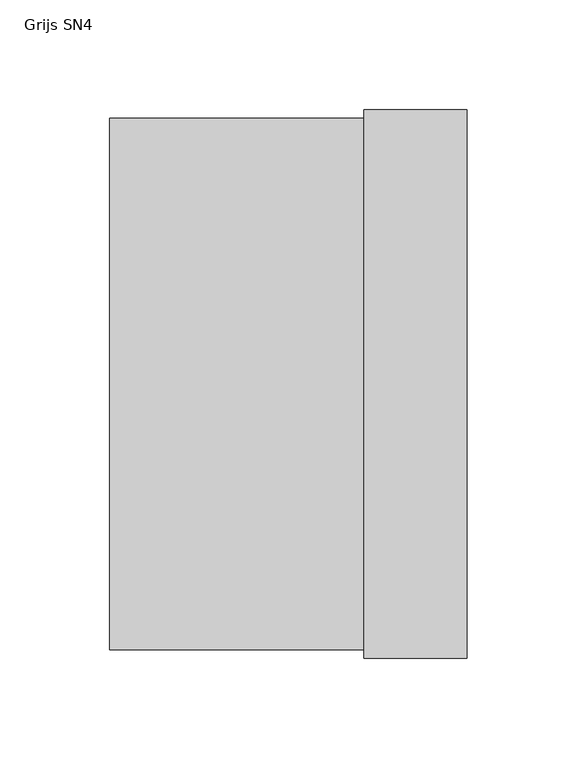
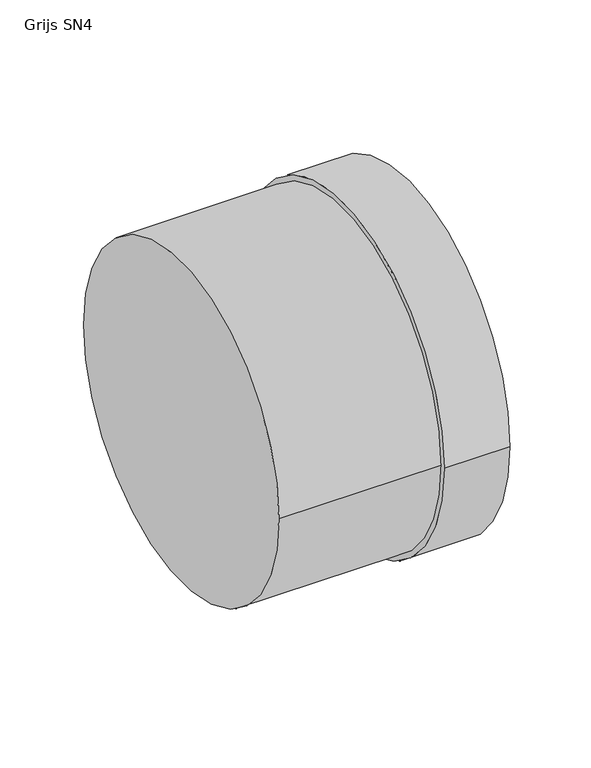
"""IFC4 building model written with IfcOpenShell, lengths in millimetres: pipe fitting geometry, NLRS_52_PIF_UN_SN4 SN8 afsluitkap_Dyka : Grijs SN4."""

from ifc_helpers import new_model, si_unit, point, frame, origin, origin_2d, place, context, project, spatial, circle_curve, trimmed, segment, composite_curve, outline, extrude, source, transform, mapped, element, save


def grijs_sn4_0e01fd9a(model_context):
    return source(origin(), model_context, "Body", "SweptSolid", [
        extrude(outline(composite_curve([segment(trimmed(circle_curve(origin_2d(), 125.0), [point((-125.0, 0.0))], [point((125.0, 0.0))], False, "CARTESIAN"), True, "CONTINUOUS"), segment(trimmed(circle_curve(origin_2d(), 125.0), [point((125.0, 0.0))], [point((-125.0, 0.0))], False, "CARTESIAN"), True, "CONTINUOUS")], self_intersect=False)), frame((0.0, 0.0, 0.0), z_axis=(1.0, 0.0, 0.0), x_axis=(0.0, 1.0, 0.0)), (0.0, 0.0, 1.0), 47.0),
        extrude(outline(composite_curve([segment(trimmed(circle_curve(origin_2d(), 121.2), [point((-121.2, 0.0))], [point((121.2, 0.0))], False, "CARTESIAN"), True, "CONTINUOUS"), segment(trimmed(circle_curve(origin_2d(), 121.2), [point((121.2, 0.0))], [point((-121.2, 0.0))], False, "CARTESIAN"), True, "CONTINUOUS")], self_intersect=False)), frame((-116.0, 0.0, 0.0), z_axis=(1.0, 0.0, 0.0), x_axis=(0.0, 1.0, 0.0)), (0.0, 0.0, 1.0), 116.0),
    ])


if __name__ == "__main__":
    model = new_model("IFC4")
    model_context = context("Model", 3, world=origin())
    ifc_project = project(units=[si_unit("LENGTHUNIT", "METRE", prefix="MILLI")], contexts=[model_context])
    site = spatial("IfcSite", under=ifc_project)
    building = spatial("IfcBuilding", under=site)
    placement = place(None, origin())
    grijs_sn4_shape = grijs_sn4_0e01fd9a(model_context)
    element("IfcPipeFitting", 1, ObjectType="NLRS_52_PIF_UN_SN4 SN8 afsluitkap_Dyka : Grijs SN4", at=placement, inside=building, context=model_context, shape_type="MappedRepresentation", body=[
        mapped(grijs_sn4_shape, transform((0.0, 0.0, 0.0), x_axis=(1.0, 0.0, 0.0), y_axis=(0.0, 1.0, 0.0), z_axis=(0.0, 0.0, 1.0))),
    ])
    save(model, "model.ifc")
